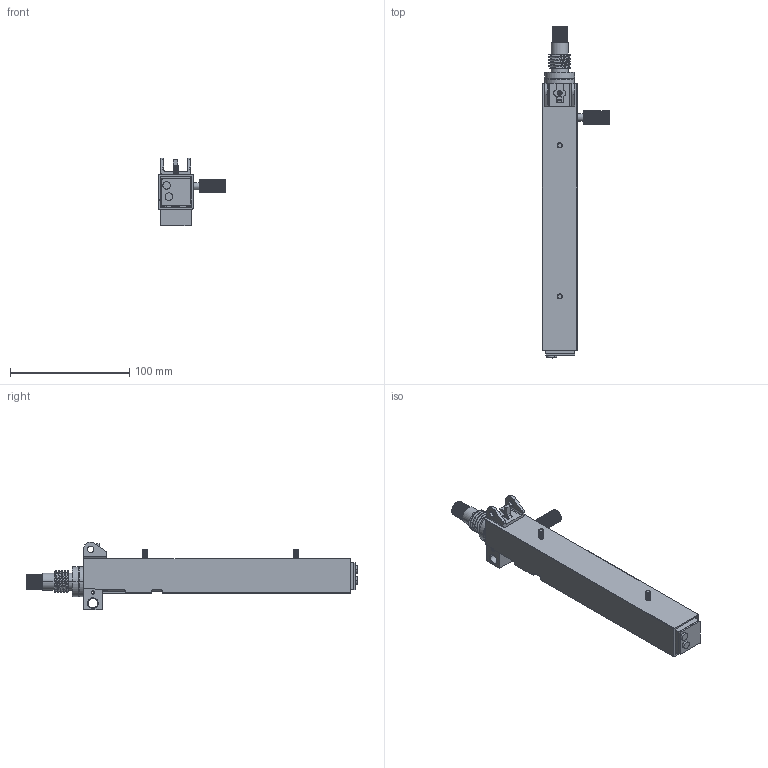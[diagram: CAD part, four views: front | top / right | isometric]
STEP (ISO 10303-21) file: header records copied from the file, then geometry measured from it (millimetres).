
FILE_DESCRIPTION(('STEP AP214'),'1');
FILE_NAME('DBFirearms DB9 Bolt and Upper Assembly (VMAC9 SPEC).step','2021-07-09T18:20:09',(' '),(' '),'Spatial InterOp 3D',' ',' ');
FILE_SCHEMA(('AUTOMOTIVE_DESIGN { 1 0 10303 214 1 1 1 1 }'));
Length unit declared in the file: metre
Products named in the file (14): DBFirearms DB9 Bolt and Upper Assembly (VMAC9 SPEC); Component1; Component2; Component3; Component4; Component5; Component6; Component7; Component8; Component9; Component10; Component11; Component12; Component13
Assembly tree (13 placements, depth 2):
  DBFirearms DB9 Bolt and Upper Assembly (VMAC9 SPEC)
    Component1
    Component2
    Component3
    Component4
    Component5
    Component6
    Component7
    Component8
    Component9
    Component10
    Component11
    Component12
    Component13
Bounding box: 56.31 x 278.55 x 56.79 mm (x, y, z)
Volume: 122964.5 mm3; surface area: 91434.7 mm2
Topology: 13 solids, 13 shells, 1233 faces, 3516 edges, 2354 vertices
Faces by surface type: cylinder 710, plane 346, bspline 147, cone 25, sphere 4, torus 1
Full cylindrical faces by diameter (mm): 6.17 x1, 6.25 x1, 10.9 x1
Entity records: 163236 total; most frequent: CARTESIAN_POINT 132229, ORIENTED_EDGE 7024, DIRECTION 5528, EDGE_CURVE 3512, VERTEX_POINT 2354, AXIS2_PLACEMENT_3D 1977, LINE 1574, VECTOR 1574
